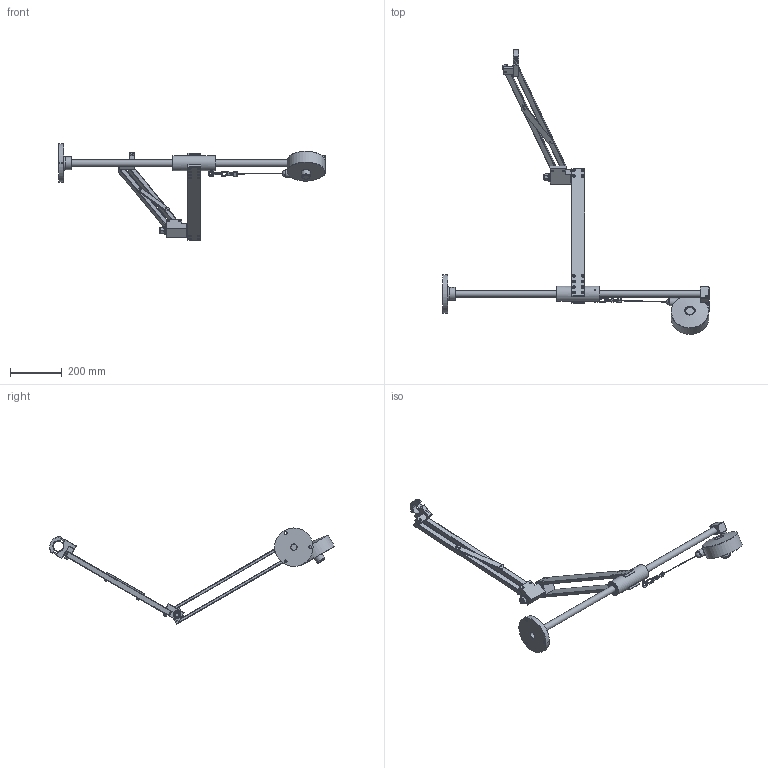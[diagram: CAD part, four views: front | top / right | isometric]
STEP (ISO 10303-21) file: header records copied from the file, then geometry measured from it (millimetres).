
FILE_DESCRIPTION( ( 'Unknown' ), '1' );
FILE_NAME( 'D:/dogabe/Industrie/Industrie 2007/07-38-3193 DOGA/4-1200278_bras BA 100 R_900_3D/4-1200278_bras BA 100 R_900.stp', 'Unknown', ( 'Unknown' ), ( 'Unknown' ), 'PSStep 14.0', 'Unknown', ' ' );
FILE_SCHEMA( ( 'AUTOMOTIVE_DESIGN { 1 0 10303 214 1 1 1 1 }' ) );
Length unit declared in the file: millimetre
Products named in the file (66): Asm Pince BA100R; CHC M6x45 fileté sous tete; CHC M6x45 fileté sous tete-oa1; Placement'; collier; Pince BA100R; Sous ensemble Arrière bras BA100R - Rallongé 900; Douille KB25; Douille KB25-oa2; Piton M6; Pivot support; Axe 20 BA100R; Fourreau BA100R; FHC M6x20; FHC M6x20-oa3; FHC M6x20-oa4; FHC M6x20-oa5; FHC M6x20-oa6; FHC M6x20-oa7; FHC M6x20-oa8; FHC M6x20-oa9; FHC M6x20-oa10; FHC M6x20-oa11; FHC M6x20-oa12; FHC M6x20-oa13; FHC M6x20-oa14; FHC M6x20-oa15; FHC M6x20-oa16; FHC M6x20-oa17; Plaque support BA100R - Rallongé 900; Plaque support BA100R - Rallongé 900-oa18; Equilibreur BA100R; Support equilibreur; Bague; Vis M4x8; Entretoise; Entretoise-oa0; CHC M8x50; Equilibreur 6 - 8Kg; Mat BA100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
Assembly tree (65 placements, depth 3):
  Assem1
    Cable
    Mat BA100
      Vis HC M8x12 à bout plat
      Axe mat BA100
      Pied BA100
    Equilibreur BA100R
      Support equilibreur
      Bague
      Vis M4x8
      Entretoise
      Entretoise-oa0
      CHC M8x50
      Equilibreur 6 - 8Kg
    Asm Pince BA100R
      CHC M6x45 fileté sous tete
      CHC M6x45 fileté sous tete-oa1
      Placement'
      collier
      Pince BA100R
    Sous ensemble Arrière bras BA100R - Rallongé 900
      Douille KB25
      Douille KB25-oa2
      Piton M6
      Pivot support
      Axe 20 BA100R
      Fourreau BA100R
      FHC M6x20
      FHC M6x20-oa3
      FHC M6x20-oa4
      FHC M6x20-oa5
      FHC M6x20-oa6
      FHC M6x20-oa7
      FHC M6x20-oa8
      FHC M6x20-oa9
      FHC M6x20-oa10
      FHC M6x20-oa11
      FHC M6x20-oa12
      FHC M6x20-oa13
      FHC M6x20-oa14
      FHC M6x20-oa15
      FHC M6x20-oa16
      FHC M6x20-oa17
      Plaque support BA100R - Rallongé 900
      Plaque support BA100R - Rallongé 900-oa18
    Sous ensemble Avant bras BA100R-22.5 - Rallongé 900
      Butée à aiguilles AXK1730
      16 Z
      16 Z-oa19
      20 Z
      CHC M6x25
      CHC M6x25-oa20
      H M16 Nyl
      CHC M8x40
      CHC M8x40-oa21
      CHC M8x40-oa22
      CHC M8x40-oa23
      Roulement à aiguilles LR20x25x20-5
      Roulement à aiguilles LR20x25x20-5-oa24
      Entretoise pivot
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Bounding box: 1028.76 x 1097.57 x 370.34 mm (x, y, z)
Volume: 3532010.7 mm3; surface area: 660548.2 mm2
Topology: 60 solids, 60 shells, 1239 faces, 2835 edges, 1792 vertices
Faces by surface type: plane 712, cylinder 363, cone 108, torus 40, sphere 9, bspline 7
Full cylindrical faces by diameter (mm): 2 x1, 2.4 x1, 2.5 x2, 3.3 x1, 4 x1, 5 x16, 5.8 x20, 6 x47, 6.5 x2, 6.8 x7, 7 x1, 7.8 x5, 8 x10, 8.5 x2, 9 x2, 10 x4, 10.5 x3, 13 x8, 14 x1, 16 x3, 17 x1, 19.99 x1, 20 x6, 21 x1, 23.713 x1, 24 x1, 25 x7, 26 x3, 28 x3, 28.5 x1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
Entity records: 45363 total; most frequent: CARTESIAN_POINT 8629, DIRECTION 5543, ORIENTED_EDGE 4672, EDGE_CURVE 2336, AXIS2_PLACEMENT_3D 2123, EDGE_LOOP 1812, VERTEX_POINT 1618, FACE_OUTER_BOUND 1439
